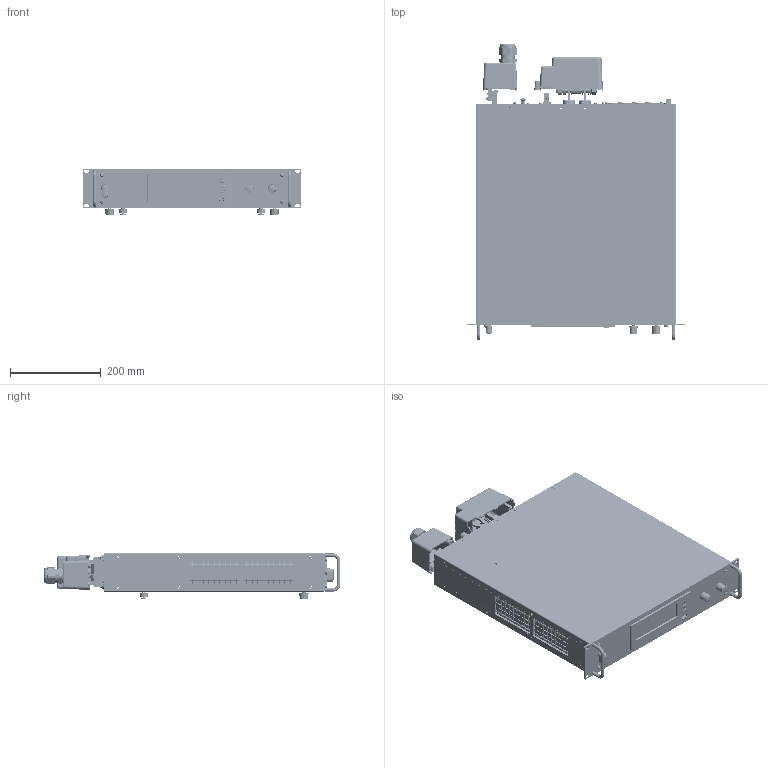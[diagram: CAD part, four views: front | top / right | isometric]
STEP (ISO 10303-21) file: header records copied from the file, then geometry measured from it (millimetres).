
FILE_DESCRIPTION(/* description */ (''),/* implementation_level */ '2;1');
FILE_NAME(/* name */ 'Assembly SM6K website 40V 75V.stp',/* time_stamp */ '2026-05-18T11:37:37+02:00',/* author */ ('martijn'),/* organization */ (''),/* preprocessor_version */ 'ST-DEVELOPER v20.1',/* originating_system */ 'Autodesk Inventor 2026',/* authorisation */ '');
FILE_SCHEMA (('AUTOMOTIVE_DESIGN { 1 0 10303 214 3 1 1 }'));
Products named in the file (1): Assembly SM6K website 40V 75V
Bounding box: 482.5 x 655 x 103.55 mm (x, y, z)
Volume: 18568437.2 mm3; surface area: 1732257.3 mm2
Topology: 24 solids, 306 shells, 9601 faces, 26066 edges, 16830 vertices
Faces by surface type: plane 6050, cylinder 1811, cone 930, bspline 467, torus 272, sphere 71
Full cylindrical faces by diameter (mm): 0.339 x4, 1.2 x2, 1.5 x3, 1.8 x8, 2 x6, 2.4 x8, 2.459 x5, 2.5 x14, 2.7 x1, 3 x6, 3.2 x3, 3.25 x1, 3.3 x1, 3.5 x10, 4 x16, 4.1 x6, 4.2 x5, 4.22 x26, 4.3 x14, 4.5 x10, 4.6 x22, 4.8 x2, 5 x5, 5.2 x4, 5.5 x28, 5.6 x3, 6 x17, 6.2 x2, 7.655 x1, 7.7 x8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
Entity records: 322366 total; most frequent: CARTESIAN_POINT 74153, ORIENTED_EDGE 50267, DIRECTION 47674, EDGE_CURVE 25887, LINE 17454, VECTOR 17454, VERTEX_POINT 16830, AXIS2_PLACEMENT_3D 15110
